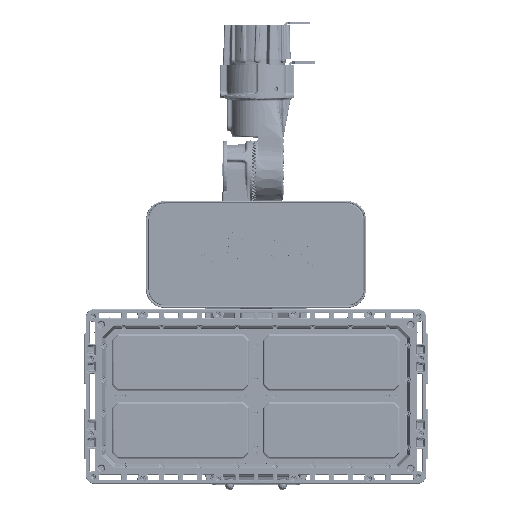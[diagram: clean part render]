
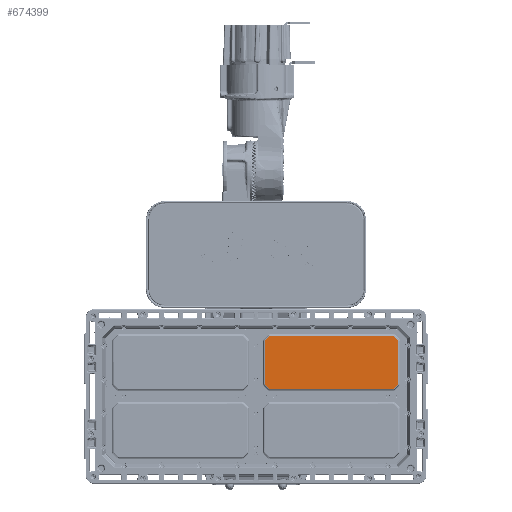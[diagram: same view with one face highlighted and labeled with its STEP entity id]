
A CAD part, front view. The second image highlights one B-rep face of the part: STEP entity #674399.
In plain terms, the highlighted planar face has unit normal (0, -1, 0) as drawn and (0, 1, 0) by its records, which use the part's own axes.
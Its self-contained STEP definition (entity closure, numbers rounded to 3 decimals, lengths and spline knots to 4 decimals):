
#655358=CARTESIAN_POINT('',(3.2701,0.433,
1.3993));
#655359=CARTESIAN_POINT('',(3.2758,0.433,
1.3992));
#655360=CARTESIAN_POINT('',(3.2869,0.433,
1.3977));
#655361=CARTESIAN_POINT('',(3.3028,0.433,
1.3912));
#655362=CARTESIAN_POINT('',(3.3117,0.433,
1.3843));
#655363=CARTESIAN_POINT('',(3.3159,0.433,
1.3802));
#655375=CARTESIAN_POINT('',(-3.2701,0.433,
1.3992));
#655377=CARTESIAN_POINT('',(3.2701,0.433,
1.3993));
#655421=CARTESIAN_POINT('',(-3.316,0.433,
1.3803));
#655422=CARTESIAN_POINT('',(-3.3119,0.433,
1.3843));
#655423=CARTESIAN_POINT('',(-3.303,0.433,
1.391));
#655424=CARTESIAN_POINT('',(-3.2871,0.433,
1.3977));
#655425=CARTESIAN_POINT('',(-3.2759,0.433,
1.3992));
#655426=CARTESIAN_POINT('',(-3.2701,0.433,
1.3992));
#655437=CARTESIAN_POINT('',(-3.316,0.433,
1.3803));
#655477=CARTESIAN_POINT('',(-3.5323,0.433,
1.1371));
#655478=CARTESIAN_POINT('',(-3.5322,0.433,
1.1428));
#655479=CARTESIAN_POINT('',(-3.5307,0.433,
1.1539));
#655480=CARTESIAN_POINT('',(-3.5242,0.433,
1.1698));
#655481=CARTESIAN_POINT('',(-3.5173,0.433,
1.1787));
#655482=CARTESIAN_POINT('',(-3.5132,0.433,
1.1829));
#655494=CARTESIAN_POINT('',(-3.5322,0.433,
-1.1371));
#655496=CARTESIAN_POINT('',(-3.5323,0.433,
1.1371));
#655540=CARTESIAN_POINT('',(-3.5133,0.433,
-1.183));
#655541=CARTESIAN_POINT('',(-3.5173,0.433,
-1.1789));
#655542=CARTESIAN_POINT('',(-3.524,0.433,
-1.17));
#655543=CARTESIAN_POINT('',(-3.5307,0.433,
-1.1541));
#655544=CARTESIAN_POINT('',(-3.5322,0.433,
-1.1429));
#655545=CARTESIAN_POINT('',(-3.5322,0.433,
-1.1371));
#655552=CARTESIAN_POINT('',(-3.5133,0.433,
-1.183));
#655600=CARTESIAN_POINT('',(-3.2701,0.433,
-1.3993));
#655601=CARTESIAN_POINT('',(-3.2758,0.433,
-1.3992));
#655602=CARTESIAN_POINT('',(-3.2869,0.433,
-1.3977));
#655603=CARTESIAN_POINT('',(-3.3028,0.433,
-1.3912));
#655604=CARTESIAN_POINT('',(-3.3117,0.433,
-1.3843));
#655605=CARTESIAN_POINT('',(-3.3159,0.433,
-1.3802));
#655611=CARTESIAN_POINT('',(-3.2701,0.433,
-1.3993));
#655662=CARTESIAN_POINT('',(3.316,0.433,
-1.3803));
#655664=CARTESIAN_POINT('',(3.316,0.433,
-1.3803));
#655665=CARTESIAN_POINT('',(3.3119,0.433,
-1.3843));
#655666=CARTESIAN_POINT('',(3.303,0.433,
-1.391));
#655667=CARTESIAN_POINT('',(3.2871,0.433,
-1.3977));
#655668=CARTESIAN_POINT('',(3.2759,0.433,
-1.3992));
#655669=CARTESIAN_POINT('',(3.2701,0.433,
-1.3992));
#655720=CARTESIAN_POINT('',(3.5323,0.433,
-1.1371));
#655721=CARTESIAN_POINT('',(3.5322,0.433,
-1.1428));
#655722=CARTESIAN_POINT('',(3.5307,0.433,
-1.1539));
#655723=CARTESIAN_POINT('',(3.5242,0.433,
-1.1698));
#655724=CARTESIAN_POINT('',(3.5173,0.433,
-1.1787));
#655725=CARTESIAN_POINT('',(3.5132,0.433,
-1.1829));
#655737=CARTESIAN_POINT('',(3.5322,0.433,
1.1371));
#655739=CARTESIAN_POINT('',(3.5323,0.433,
-1.1371));
#655783=CARTESIAN_POINT('',(3.5133,0.433,
1.183));
#655784=CARTESIAN_POINT('',(3.5173,0.433,
1.1789));
#655785=CARTESIAN_POINT('',(3.524,0.433,
1.17));
#655786=CARTESIAN_POINT('',(3.5307,0.433,
1.1541));
#655787=CARTESIAN_POINT('',(3.5322,0.433,
1.1429));
#655788=CARTESIAN_POINT('',(3.5322,0.433,
1.1371));
#655799=CARTESIAN_POINT('',(3.5133,0.433,
1.183));
#655816=DIRECTION('',(-0.707,0.,-0.707));
#655817=VECTOR('',#655816,0.279);
#655818=CARTESIAN_POINT('',(-3.316,0.433,
1.3803));
#655819=LINE('',#655818,#655817);
#655820=DIRECTION('',(0.,0.,-1.));
#655821=VECTOR('',#655820,2.2742);
#655822=CARTESIAN_POINT('',(-3.5323,0.433,
1.1371));
#655823=LINE('',#655822,#655821);
#655824=DIRECTION('',(0.707,0.,-0.707));
#655825=VECTOR('',#655824,0.279);
#655826=CARTESIAN_POINT('',(-3.5133,0.433,
-1.183));
#655827=LINE('',#655826,#655825);
#655828=DIRECTION('',(1.,0.,0.));
#655829=VECTOR('',#655828,6.5402);
#655830=CARTESIAN_POINT('',(-3.2701,0.433,
-1.3993));
#655831=LINE('',#655830,#655829);
#655832=DIRECTION('',(0.707,0.,0.707));
#655833=VECTOR('',#655832,0.279);
#655834=CARTESIAN_POINT('',(3.316,0.433,
-1.3803));
#655835=LINE('',#655834,#655833);
#655836=DIRECTION('',(0.,0.,1.));
#655837=VECTOR('',#655836,2.2742);
#655838=CARTESIAN_POINT('',(3.5323,0.433,
-1.1371));
#655839=LINE('',#655838,#655837);
#655840=DIRECTION('',(-0.707,0.,0.707));
#655841=VECTOR('',#655840,0.279);
#655842=CARTESIAN_POINT('',(3.5133,0.433,
1.183));
#655843=LINE('',#655842,#655841);
#655844=DIRECTION('',(-1.,0.,0.));
#655845=VECTOR('',#655844,6.5402);
#655846=CARTESIAN_POINT('',(3.2701,0.433,
1.3993));
#655847=LINE('',#655846,#655845);
#663096=VERTEX_POINT('',#655377);
#663097=VERTEX_POINT('',#655363);
#663100=VERTEX_POINT('',#655375);
#663103=VERTEX_POINT('',#655437);
#663106=CARTESIAN_POINT('',(-3.5132,0.433,
1.1829));
#663107=VERTEX_POINT('',#663106);
#663110=VERTEX_POINT('',#655496);
#663113=VERTEX_POINT('',#655494);
#663116=VERTEX_POINT('',#655552);
#663119=CARTESIAN_POINT('',(-3.3159,0.433,
-1.3802));
#663120=VERTEX_POINT('',#663119);
#663123=VERTEX_POINT('',#655611);
#663126=CARTESIAN_POINT('',(3.2701,0.433,
-1.3992));
#663127=VERTEX_POINT('',#663126);
#663130=VERTEX_POINT('',#655662);
#663133=CARTESIAN_POINT('',(3.5132,0.433,
-1.1829));
#663134=VERTEX_POINT('',#663133);
#663137=VERTEX_POINT('',#655739);
#663140=VERTEX_POINT('',#655737);
#663143=VERTEX_POINT('',#655799);
#674376=CARTESIAN_POINT('',(-3.,0.433,-0.867));
#674377=DIRECTION('',(0.,1.,0.));
#674378=DIRECTION('',(1.,0.,0.));
#674379=AXIS2_PLACEMENT_3D('',#674376,#674377,#674378);
#674380=PLANE('',#674379);
#674381=ORIENTED_EDGE('',*,*,#673990,.F.);
#674382=ORIENTED_EDGE('',*,*,#674005,.T.);
#674383=ORIENTED_EDGE('',*,*,#674049,.F.);
#674384=ORIENTED_EDGE('',*,*,#674064,.T.);
#674385=ORIENTED_EDGE('',*,*,#674108,.F.);
#674386=ORIENTED_EDGE('',*,*,#674123,.T.);
#674387=ORIENTED_EDGE('',*,*,#674167,.F.);
#674388=ORIENTED_EDGE('',*,*,#674182,.T.);
#674389=ORIENTED_EDGE('',*,*,#674226,.F.);
#674390=ORIENTED_EDGE('',*,*,#674241,.T.);
#674391=ORIENTED_EDGE('',*,*,#674285,.F.);
#674392=ORIENTED_EDGE('',*,*,#674300,.T.);
#674393=ORIENTED_EDGE('',*,*,#674344,.F.);
#674394=ORIENTED_EDGE('',*,*,#674358,.T.);
#674395=ORIENTED_EDGE('',*,*,#673930,.F.);
#674396=ORIENTED_EDGE('',*,*,#673946,.T.);
#674397=EDGE_LOOP('',(#674381,#674382,#674383,#674384,#674385,#674386,#674387,
#674388,#674389,#674390,#674391,#674392,#674393,#674394,#674395,#674396));
#674398=FACE_OUTER_BOUND('',#674397,.F.);
#674399=ADVANCED_FACE('',(#674398),#674380,.T.);
#655364=B_SPLINE_CURVE_WITH_KNOTS('',3,(#655358,#655359,#655360,#655361,#655362,
#655363),.UNSPECIFIED.,.F.,.F.,(4,1,1,4),(0.,0.3333,
0.6667,1.),.UNSPECIFIED.);
#655427=B_SPLINE_CURVE_WITH_KNOTS('',3,(#655421,#655422,#655423,#655424,#655425,
#655426),.UNSPECIFIED.,.F.,.F.,(4,1,1,4),(0.,0.3333,
0.6667,1.),.UNSPECIFIED.);
#655483=B_SPLINE_CURVE_WITH_KNOTS('',3,(#655477,#655478,#655479,#655480,#655481,
#655482),.UNSPECIFIED.,.F.,.F.,(4,1,1,4),(0.,0.3333,
0.6667,1.),.UNSPECIFIED.);
#655546=B_SPLINE_CURVE_WITH_KNOTS('',3,(#655540,#655541,#655542,#655543,#655544,
#655545),.UNSPECIFIED.,.F.,.F.,(4,1,1,4),(0.,0.3333,
0.6667,1.),.UNSPECIFIED.);
#655606=B_SPLINE_CURVE_WITH_KNOTS('',3,(#655600,#655601,#655602,#655603,#655604,
#655605),.UNSPECIFIED.,.F.,.F.,(4,1,1,4),(0.,0.3333,
0.6667,1.),.UNSPECIFIED.);
#655670=B_SPLINE_CURVE_WITH_KNOTS('',3,(#655664,#655665,#655666,#655667,#655668,
#655669),.UNSPECIFIED.,.F.,.F.,(4,1,1,4),(0.,0.3333,
0.6667,1.),.UNSPECIFIED.);
#655726=B_SPLINE_CURVE_WITH_KNOTS('',3,(#655720,#655721,#655722,#655723,#655724,
#655725),.UNSPECIFIED.,.F.,.F.,(4,1,1,4),(0.,0.3333,
0.6667,1.),.UNSPECIFIED.);
#655789=B_SPLINE_CURVE_WITH_KNOTS('',3,(#655783,#655784,#655785,#655786,#655787,
#655788),.UNSPECIFIED.,.F.,.F.,(4,1,1,4),(0.,0.3333,
0.6667,1.),.UNSPECIFIED.);
#673930=EDGE_CURVE('',#663096,#663097,#655364,.T.);
#673946=EDGE_CURVE('',#663096,#663100,#655847,.T.);
#673990=EDGE_CURVE('',#663103,#663100,#655427,.T.);
#674005=EDGE_CURVE('',#663103,#663107,#655819,.T.);
#674049=EDGE_CURVE('',#663110,#663107,#655483,.T.);
#674064=EDGE_CURVE('',#663110,#663113,#655823,.T.);
#674108=EDGE_CURVE('',#663116,#663113,#655546,.T.);
#674123=EDGE_CURVE('',#663116,#663120,#655827,.T.);
#674167=EDGE_CURVE('',#663123,#663120,#655606,.T.);
#674182=EDGE_CURVE('',#663123,#663127,#655831,.T.);
#674226=EDGE_CURVE('',#663130,#663127,#655670,.T.);
#674241=EDGE_CURVE('',#663130,#663134,#655835,.T.);
#674285=EDGE_CURVE('',#663137,#663134,#655726,.T.);
#674300=EDGE_CURVE('',#663137,#663140,#655839,.T.);
#674344=EDGE_CURVE('',#663143,#663140,#655789,.T.);
#674358=EDGE_CURVE('',#663143,#663097,#655843,.T.);
